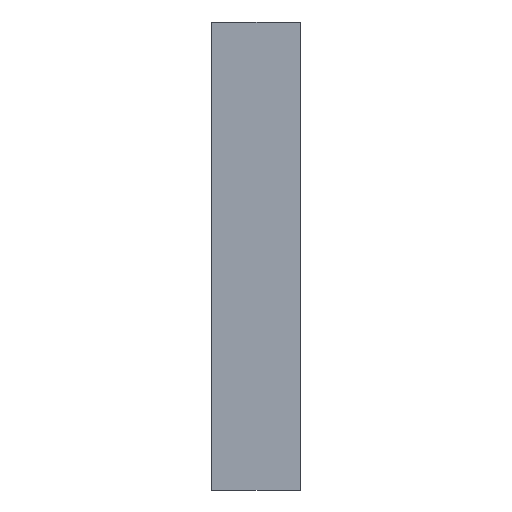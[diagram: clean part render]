
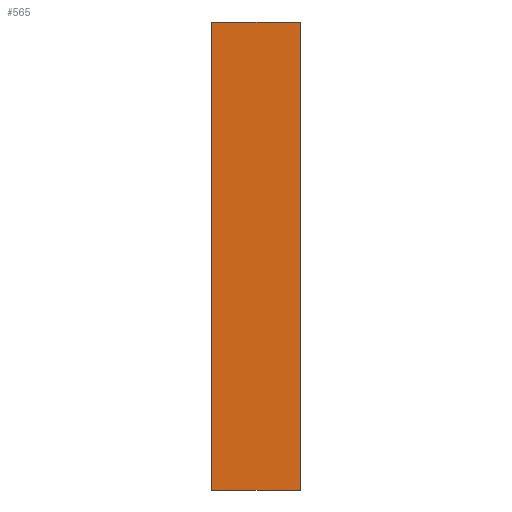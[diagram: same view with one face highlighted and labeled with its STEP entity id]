
A CAD part, left-side view. The second image highlights one B-rep face of the part: STEP entity #565.
In plain terms, the highlighted planar face has unit normal (-1, 0, 0).
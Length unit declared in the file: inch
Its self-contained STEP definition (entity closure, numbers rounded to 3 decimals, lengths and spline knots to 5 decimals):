
#21 = ORIENTED_EDGE ( 'NONE', *, *, #716, .T. ) ;
#25 = VECTOR ( 'NONE', #645, 39.37008 ) ;
#50 = CARTESIAN_POINT ( 'NONE',  ( -1.01, 0.09, -0.2375 ) ) ;
#75 = ORIENTED_EDGE ( 'NONE', *, *, #172, .T. ) ;
#142 = DIRECTION ( 'NONE',  ( 1., 0., 0. ) ) ;
#165 = DIRECTION ( 'NONE',  ( 0., -1., 0. ) ) ;
#172 = EDGE_CURVE ( 'NONE', #204, #557, #227, .T. ) ;
#184 = CARTESIAN_POINT ( 'NONE',  ( -1.01, 0.09, 0.2375 ) ) ;
#204 = VERTEX_POINT ( 'NONE', #340 ) ;
#227 = LINE ( 'NONE', #50, #506 ) ;
#251 = CARTESIAN_POINT ( 'NONE',  ( -1.01, 0.09, 0.2375 ) ) ;
#255 = LINE ( 'NONE', #251, #391 ) ;
#292 = LINE ( 'NONE', #420, #25 ) ;
#340 = CARTESIAN_POINT ( 'NONE',  ( -1.01, 0.09, -0.2375 ) ) ;
#377 = EDGE_LOOP ( 'NONE', ( #21, #606, #622, #75 ) ) ;
#383 = CARTESIAN_POINT ( 'NONE',  ( -1.01, 0., -0.2375 ) ) ;
#391 = VECTOR ( 'NONE', #655, 39.37008 ) ;
#420 = CARTESIAN_POINT ( 'NONE',  ( -1.01, 0.09, -0.2375 ) ) ;
#432 = PLANE ( 'NONE',  #556 ) ;
#446 = LINE ( 'NONE', #383, #458 ) ;
#458 = VECTOR ( 'NONE', #667, 39.37008 ) ;
#464 = VERTEX_POINT ( 'NONE', #184 ) ;
#491 = EDGE_CURVE ( 'NONE', #204, #464, #292, .T. ) ;
#506 = VECTOR ( 'NONE', #165, 39.37008 ) ;
#556 = AXIS2_PLACEMENT_3D ( 'NONE', #723, #142, #596 ) ;
#557 = VERTEX_POINT ( 'NONE', #717 ) ;
#565 = ADVANCED_FACE ( 'NONE', ( #730 ), #432, .F. ) ;
#574 = EDGE_CURVE ( 'NONE', #464, #690, #255, .T. ) ;
#596 = DIRECTION ( 'NONE',  ( 0., 0., -1. ) ) ;
#606 = ORIENTED_EDGE ( 'NONE', *, *, #574, .F. ) ;
#622 = ORIENTED_EDGE ( 'NONE', *, *, #491, .F. ) ;
#645 = DIRECTION ( 'NONE',  ( 0., 0., 1. ) ) ;
#655 = DIRECTION ( 'NONE',  ( 0., -1., 0. ) ) ;
#667 = DIRECTION ( 'NONE',  ( 0., 0., 1. ) ) ;
#690 = VERTEX_POINT ( 'NONE', #733 ) ;
#716 = EDGE_CURVE ( 'NONE', #557, #690, #446, .T. ) ;
#717 = CARTESIAN_POINT ( 'NONE',  ( -1.01, 0., -0.2375 ) ) ;
#723 = CARTESIAN_POINT ( 'NONE',  ( -1.01, 0.09, -0.2375 ) ) ;
#730 = FACE_OUTER_BOUND ( 'NONE', #377, .T. ) ;
#733 = CARTESIAN_POINT ( 'NONE',  ( -1.01, 0., 0.2375 ) ) ;
